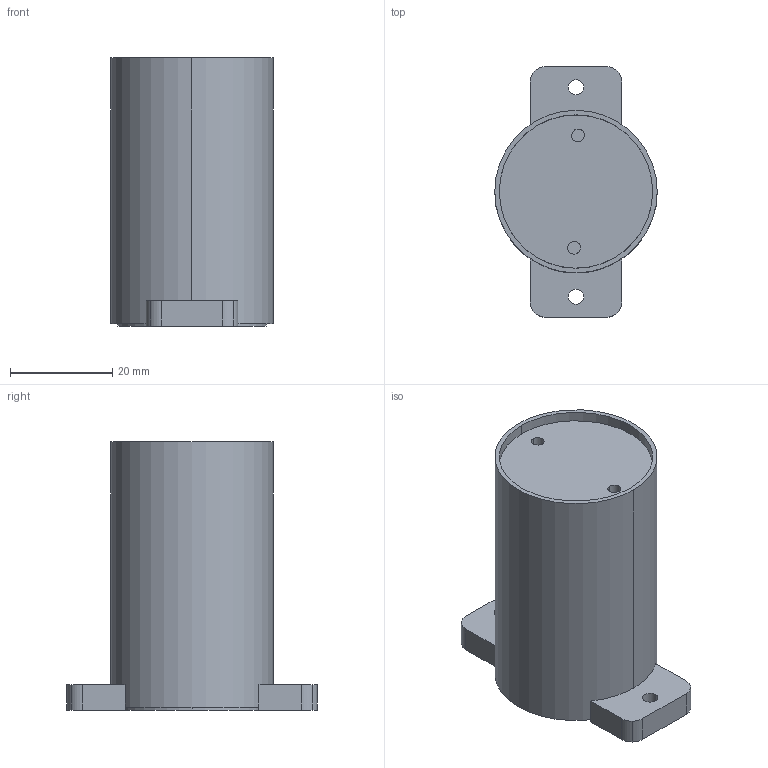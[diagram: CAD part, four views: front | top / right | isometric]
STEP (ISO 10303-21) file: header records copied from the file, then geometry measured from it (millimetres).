
FILE_DESCRIPTION(('STEP AP214'),'1');
FILE_NAME('tmp0.step','2025-04-06T17:39:10',(' '),(' '),'Spatial InterOp 3D',' ',' ');
FILE_SCHEMA(('AUTOMOTIVE_DESIGN { 1 0 10303 214 1 1 1 1 }'));
Length unit declared in the file: millimetre
Products named in the file (1): 1
Bounding box: 31.8 x 49 x 52.5 mm (x, y, z)
Volume: 10354.2 mm3; surface area: 16316 mm2
Topology: 6 solids, 6 shells, 58 faces, 144 edges, 96 vertices
Faces by surface type: cylinder 36, plane 18, cone 4
Entity records: 1919 total; most frequent: DIRECTION 350, CARTESIAN_POINT 340, ORIENTED_EDGE 288, AXIS2_PLACEMENT_3D 146, EDGE_CURVE 144, VERTEX_POINT 96, CIRCLE 82, EDGE_LOOP 74
